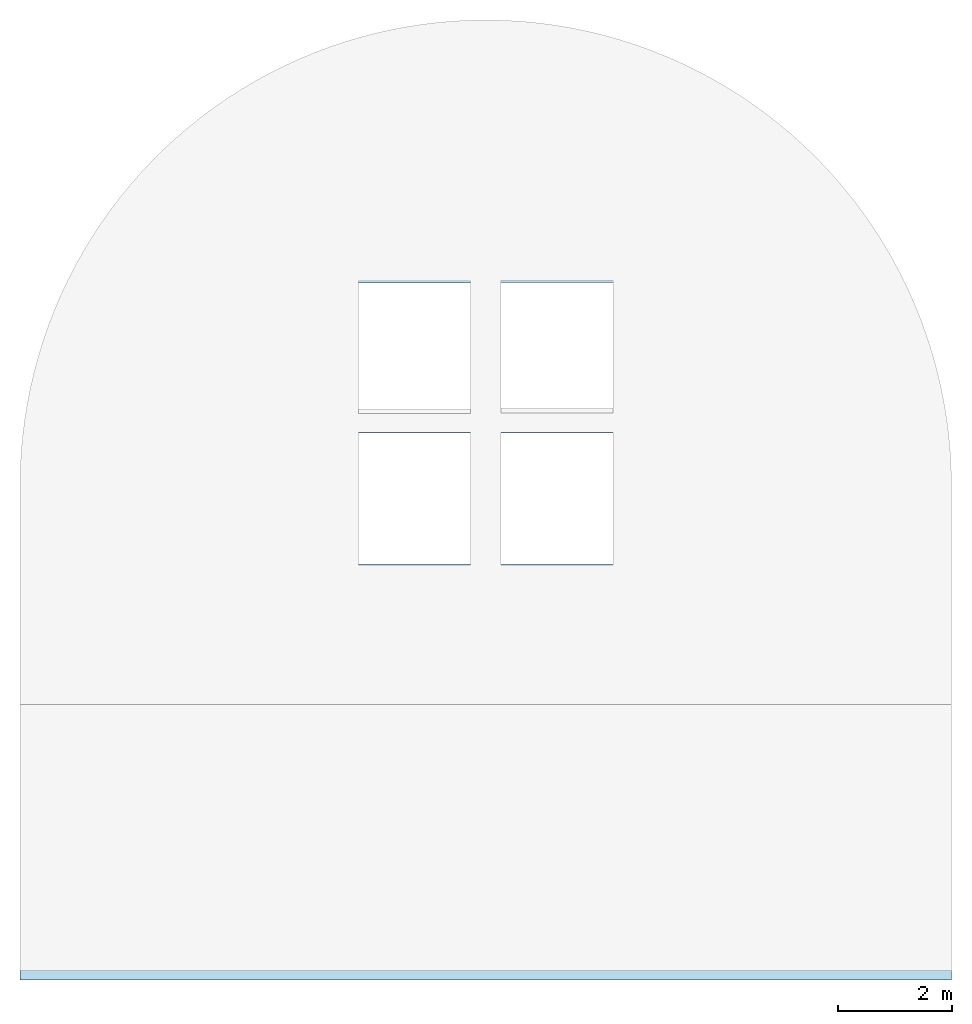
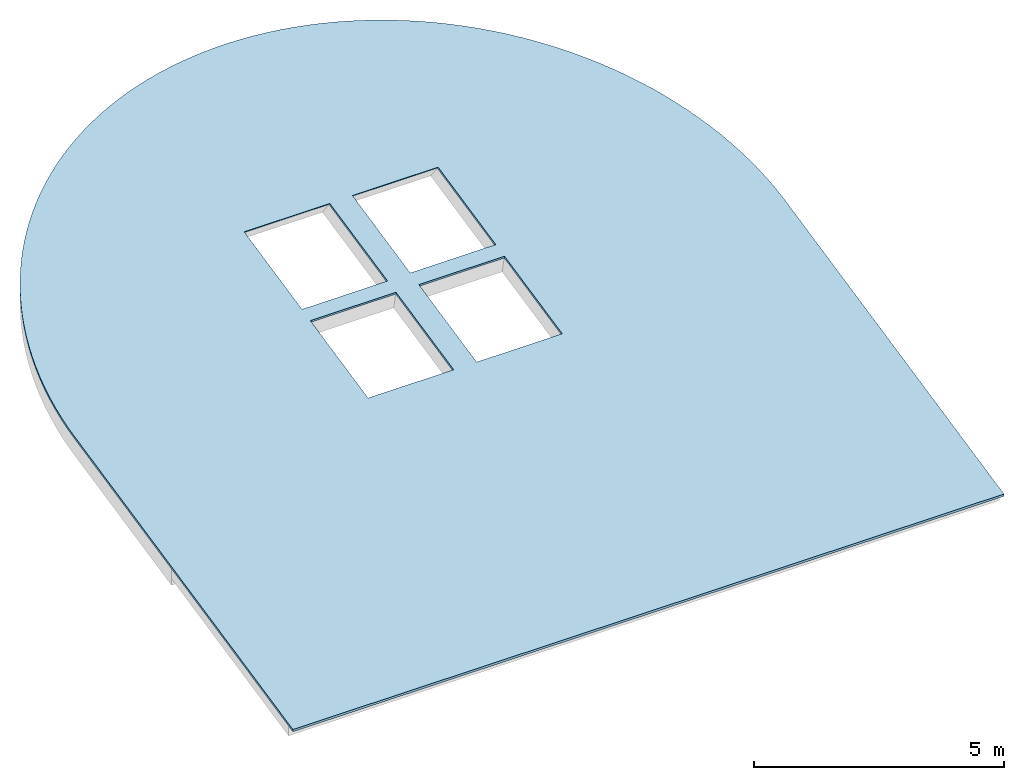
# One storey, part 2 of 3: 1 slab.
"""IFC4 building model written with IfcOpenShell, lengths in millimetres."""

from ifc_helpers import new_model, entity, si_unit, converted_unit, derived_unit, direction, frame, origin_with_axes, place, context, subcontext, project, spatial, polygons, material, type_object, element, save


model = new_model("IFC4")

# Units and contexts
model_context = context("Model", 3, precision=0.01, world=origin_with_axes(), true_north=direction((0.0, 1.0)))
body_context = subcontext(model_context, "Body", "Model", "MODEL_VIEW")
ifc_project = project(units=[si_unit("LENGTHUNIT", "METRE", prefix="MILLI"), si_unit("AREAUNIT", "SQUARE_METRE"), si_unit("VOLUMEUNIT", "CUBIC_METRE"), converted_unit("PLANEANGLEUNIT", "DEGREE", entity("IfcPlaneAngleMeasure", 0.0174532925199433), si_unit("PLANEANGLEUNIT", "RADIAN"), dimensions=[0, 0, 0, 0, 0, 0, 0]), converted_unit("TIMEUNIT", "Year", entity("IfcTimeMeasure", 31557600.0), si_unit("TIMEUNIT", "SECOND"), dimensions=[0, 0, 1, 0, 0, 0, 0]), si_unit("MASSUNIT", "GRAM", prefix="KILO"), si_unit("THERMODYNAMICTEMPERATUREUNIT", "DEGREE_CELSIUS"), si_unit("LUMINOUSINTENSITYUNIT", "LUMEN"), si_unit("ENERGYUNIT", "JOULE", prefix="MEGA"), derived_unit("THERMALCONDUCTANCEUNIT", [(si_unit("POWERUNIT", "WATT"), 1), (si_unit("LENGTHUNIT", "METRE"), -1), (si_unit("THERMODYNAMICTEMPERATUREUNIT", "KELVIN"), -1)]), derived_unit("SPECIFICHEATCAPACITYUNIT", [(si_unit("ENERGYUNIT", "JOULE"), 1), (si_unit("MASSUNIT", "GRAM", prefix="KILO"), -1), (si_unit("THERMODYNAMICTEMPERATUREUNIT", "KELVIN"), -1)]), derived_unit("MASSDENSITYUNIT", [(si_unit("MASSUNIT", "GRAM", prefix="KILO"), 1), (si_unit("VOLUMEUNIT", "CUBIC_METRE"), -1)])], contexts=[model_context])

# Site, building, storey
site_placement = place(None, origin_with_axes())
site = spatial("IfcSite", under=ifc_project, at=site_placement, Name="Exteriér", CompositionType="ELEMENT")
building_placement = place(site_placement, origin_with_axes())
building = spatial("IfcBuilding", under=site, at=building_placement, Name="Univerzitní lezecké centrum", CompositionType="ELEMENT")
storey_placement = place(building_placement, frame((0.0, 0.0, 12800.0), z_axis=(0.0, 0.0, 1.0), x_axis=(1.0, 0.0, 0.0)))
storey = spatial("IfcBuildingStorey", under=building, at=storey_placement, Name="Střecha", CompositionType="ELEMENT", Elevation=12800.0)

# Slab
ifc_material = material(Name="Trapézový plech")
slab_type = type_object("IfcSlabType", Name="Trapézový plech 54", PredefinedType="ROOF")
slab_placement = place(storey_placement, frame((-4450.14840074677, -15002.61071664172, -3371.248031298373), z_axis=(0.0, 0.0, 1.0), x_axis=(1.0, 0.0, 0.0)))
element("IfcSlab", 1, at=slab_placement, inside=storey, type_object=slab_type, material=ifc_material, Name="S01", PredefinedType="ROOF", context=body_context, shape_type="Tessellation", body=[
    polygons([(-1281.061409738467, 23977.80168603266, 5151.639082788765), (-1296.211063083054, 23690.33798591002, 5090.536787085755), (-1299.999935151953, 23402.51969498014, 5029.359120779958), (-1299.999935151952, 14702.51969498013, 3180.117034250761), (15100.00005519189, 14702.51969498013, 3180.117034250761), (15099.99993135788, 23402.51969498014, 5029.359120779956), (15099.99993135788, 23546.45100749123, 5059.952665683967), (15089.89756925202, 23834.13630980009, 5121.102064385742), (15069.70529110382, 24121.28986242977, 5182.138436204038), (15039.44797370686, 24407.55789352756, 5242.98658461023), (14999.16289393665, 24692.58772219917, 5303.571544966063), (14948.89968282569, 24976.02819301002, 5363.81867687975), (14888.72026441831, 25257.53010860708, 5423.653756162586), (14818.69877948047, 25536.74665992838, 5483.003066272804), (14738.92149415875, 25813.33385347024, 5541.793489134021), (14649.48669370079, 26086.9509350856, 5599.952595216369), (14550.50456136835, 26357.26080979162, 5657.408732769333), (14442.09704269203, 26623.93045706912, 5714.091116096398), (14324.39769523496, 26886.63134114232, 5769.929912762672), (14197.55152405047, 27145.03981573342, 5824.856329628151), (14061.71480303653, 27398.83752279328, 5878.80269760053), (13917.05488240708, 27647.71178471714, 5931.70255500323), (13763.74998251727, 27891.35598956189, 5983.490729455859), (13601.98897429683, 28129.46996879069, 6034.103418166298), (13431.971146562, 28361.7603670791, 6083.478266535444), (13253.90596049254, 28587.94100372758, 6131.554444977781), (13068.0127915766, 28807.73322523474, 6178.272723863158), (12874.52065934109, 29020.86624859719, 6223.575546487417), (12673.66794520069, 29227.07749491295, 6267.407099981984), (12465.70209877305, 29426.11291287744, 6309.713384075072), (12250.87933302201, 29617.72729177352, 6350.442277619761), (12029.46430860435, 29801.68456356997, 6389.543602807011), (11801.72980780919, 29977.7580937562, 6426.969186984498), (11567.95639849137, 30145.73096055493, 6462.672922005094), (11328.43208841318, 30305.39622216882, 6496.610821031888), (11083.45197042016, 30456.55717173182, 6528.741072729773), (10833.31785888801, 30599.02757965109, 6559.02409277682), (10578.33791788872, 30732.63192304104, 6587.422572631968), (10318.82628153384, 30857.2056019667, 6613.901525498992), (10055.10266696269, 30972.59514223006, 6638.428329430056), (9787.491980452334, 31078.6583844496, 6660.972767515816), (9516.323917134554, 31175.26465919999, 6681.507065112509), (9241.932554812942, 31262.2949479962, 6700.005924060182), (8964.655942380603, 31339.64202992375, 6716.44655384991), (8684.835683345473, 31407.21061373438, 6730.808699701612), (8402.81651497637, 31464.9174552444, 6743.074667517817), (8118.94588358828, 31512.69145989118, 6753.229345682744), (7833.573516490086, 31550.47377032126, 6761.260223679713), (7547.050991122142, 31578.21783890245, 6767.157407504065), (7259.731301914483, 31595.88948507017, 6770.913631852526), (6971.968425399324, 31603.46693743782, 6772.524269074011), (6684.116884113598, 31600.94086061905, 6771.9873348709), (6396.531309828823, 31588.31436672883, 6769.303490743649), (6109.566006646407, 31565.60301154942, 6764.476043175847), (5823.574514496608, 31532.83477536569, 6757.510939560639), (5538.90917357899, 31490.05002849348, 6748.416760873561), (5255.920690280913, 31437.30148154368, 6737.204711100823), (4974.95770510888, 31374.65412048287, 6723.888603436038), (4696.366363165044, 31302.18512657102, 6708.48484326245), (4420.48988769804, 31219.98378127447, 6691.01240794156), (4147.668157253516, 31128.15135627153, 6671.49282343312), (3878.237286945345, 31026.80098868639, 6649.950137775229), (3612.529214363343, 30916.05754170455, 6626.410891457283), (3350.871290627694, 30796.05745074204, 6600.904084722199), (3093.585877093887, 30666.94855535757, 6573.461141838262), (2840.989948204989, 30528.8899171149, 6544.115872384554), (2593.394700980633, 30382.05162361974, 6512.90442959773), (2351.10517162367, 30226.61457897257, 6479.865265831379), (2114.419859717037, 30062.77028089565, 6445.039085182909), (1883.630360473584, 29890.72058480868, 6408.468793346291), (1659.021005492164, 29710.67745514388, 6370.199444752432), (1440.868512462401, 29522.86270420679, 6330.278187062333), (1229.44164424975, 29327.50771890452, 6288.754203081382), (1025.000877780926, 29124.85317567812, 6245.67865016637), (827.7980831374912, 28915.14874399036, 6201.104597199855), (638.0762132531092, 28698.65277873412, 6155.086959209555), (456.0690045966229, 28475.63200194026, 6107.682429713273), (282.0006892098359, 28246.36117417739, 6058.94941087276), (116.0857184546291, 28011.12275604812, 6008.947941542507), (-41.47150119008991, 27770.20656019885, 5957.739623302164), (-190.4768599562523, 27523.90939427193, 5905.387544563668), (-330.7467839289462, 27272.53469524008, 5851.956202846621), (-462.1084612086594, 27016.39215557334, 5797.511425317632), (-584.4000548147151, 26755.79734169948, 5742.120287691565), (-697.4709020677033, 26491.07130522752, 5685.851031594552), (-801.1817002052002, 26222.54018741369, 5628.772980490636), (-895.4046780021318, 25950.53481735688, 5570.956454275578), (-980.0237531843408, 25675.39030441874, 5512.472682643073), (-1054.934675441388, 25397.44562537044, 5453.393717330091), (-1120.045154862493, 25117.04320677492, 5393.792343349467), (-1175.274975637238, 24834.5285031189, 5333.741989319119), (-1220.556094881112, 24550.24957121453, 5273.316636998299), (-1255.832726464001, 24264.55664139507, 5212.590730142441), (7164.463952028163, 26982.41026986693, 5790.288352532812), (9138.87531527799, 26982.41026986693, 5790.288352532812), (9138.87531527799, 24677.90112468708, 5300.449812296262), (7164.463952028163, 24677.90112468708, 5300.449812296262), (6635.38688765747, 24328.7958663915, 5226.245198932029), (6635.38688765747, 22023.70335290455, 4736.282659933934), (4660.975524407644, 22023.70335290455, 4736.282659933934), (4660.975524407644, 24328.7958663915, 5226.245198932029), (6635.38688765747, 24664.60869173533, 5297.624418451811), (4660.975524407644, 24664.60869173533, 5297.624418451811), (4660.975524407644, 26971.36318462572, 5787.940222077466), (6635.38688765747, 26971.36318462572, 5787.940222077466), (7164.463952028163, 22023.70335290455, 4736.282659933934), (7164.463952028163, 24330.71421876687, 5226.652957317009), (9138.87531527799, 24330.71421876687, 5226.652957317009), (9138.87531527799, 22023.70335290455, 4736.282659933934), (-1281.061409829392, 23977.80168679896, 5096.639083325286), (-1296.211062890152, 23690.33798461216, 5035.536787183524), (-1299.999935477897, 23402.51969700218, 4974.359121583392), (-1299.999935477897, 14702.51969460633, 3125.117034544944), (15100.00005574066, 14702.51969460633, 3125.117034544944), (15099.9999317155, 23413.70495295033, 4976.736621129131), (15099.9999317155, 23546.4510073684, 5004.952666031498), (15089.89756934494, 23834.13631035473, 5066.102064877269), (15069.70529086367, 24121.28986136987, 5127.138436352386), (15039.44797351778, 24407.55789413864, 5187.986585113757), (14999.16289382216, 24692.58772202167, 5248.571545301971), (14948.89968277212, 24976.0281924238, 5308.818677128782), (14888.72026463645, 25257.53010886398, 5368.653756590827), (14818.69877963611, 25536.74666080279, 5428.0030668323), (14738.92149440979, 25813.33385274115, 5486.793489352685), (14649.48669366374, 26086.95093518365, 5544.952595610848), (14550.50456159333, 26357.2608094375, 5602.408733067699), (14442.09704266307, 26623.93045764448, 5659.091116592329), (14324.39769539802, 26886.63134096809, 5714.929913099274), (14197.55152432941, 27145.03981539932, 5769.856329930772), (14061.71480285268, 27398.83752334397, 5823.802698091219), (13917.054882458, 27647.71178448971, 5876.702555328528), (13763.74998231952, 27891.35598978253, 5928.490729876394), (13601.98897417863, 28129.4699690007, 5979.103418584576), (13431.97114641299, 28361.76036769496, 6028.478267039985), (13253.90596099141, 28587.94100269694, 6076.554445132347), (13068.01279151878, 28807.73322563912, 6123.272724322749), (12874.52065915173, 29020.86624928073, 6168.575547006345), (12673.66794565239, 29227.07749410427, 6212.407100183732), (12465.70209855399, 29426.11291339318, 6254.713384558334), (12250.87933307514, 29617.72729198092, 6295.442278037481), (12029.46430882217, 29801.68456272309, 6334.543603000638), (11801.72980760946, 29977.75809363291, 6371.969187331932), (11567.95639819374, 30145.7309606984, 6407.672922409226), (11328.4320890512, 30305.3962216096, 6441.610821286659), (11083.45197026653, 30456.55717218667, 6473.741073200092), (10833.31785902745, 30599.02757980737, 6504.024093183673), (10578.33791845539, 30732.63192247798, 6532.422572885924), (10318.82628128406, 30857.20560213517, 6558.901525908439), (10055.10266714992, 30972.59514190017, 6583.428329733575), (9787.491979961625, 31078.65838470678, 6605.972767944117), (9516.323916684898, 31175.26465943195, 6626.507065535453), (9241.93255514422, 31262.29494795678, 6645.005924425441), (8964.65594248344, 31339.64202980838, 6661.446554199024), (8684.835683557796, 31407.21061392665, 6675.808700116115), (8402.816514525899, 31464.91745564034, 6688.074667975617), (8118.945883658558, 31512.69146010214, 6698.229346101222), (7833.573516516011, 31550.47377039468, 6706.260224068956), (7547.050991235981, 31578.21783861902, 6712.157407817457), (7259.731302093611, 31595.88948516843, 6715.913632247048), (6971.968425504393, 31603.46693781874, 6717.524269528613), (6684.116884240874, 31600.94086094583, 6716.987335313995), (6396.531309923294, 31588.3143664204, 6714.303491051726), (6109.566006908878, 31565.60301182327, 6709.47604360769), (5823.574514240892, 31532.83477578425, 6702.510940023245), (5538.909173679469, 31490.05002889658, 6693.41676133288), (5255.920690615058, 31437.30148176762, 6682.204711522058), (4974.95770538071, 31374.65412027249, 6668.888603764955), (4696.366363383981, 31302.1851266, 6653.484843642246), (4420.489887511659, 31219.98378106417, 6636.012408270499), (4147.668157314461, 31128.15135684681, 6616.492823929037), (3878.237286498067, 31026.80098840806, 6594.9501380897), (3612.529214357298, 30916.05754141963, 6571.410891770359), (3350.87129103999, 30796.05745094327, 6545.904085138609), (3093.585877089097, 30666.94855573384, 6518.461142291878), (2840.989948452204, 30528.88991737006, 6489.115872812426), (2593.394700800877, 30382.05162308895, 6457.904429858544), (2351.105172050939, 30226.61457976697, 6424.865266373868), (2114.419859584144, 30062.77028058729, 6390.039085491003), (1883.630360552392, 29890.72058469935, 6353.46879369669), (1659.021005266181, 29710.67745482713, 6315.19944505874), (1440.868512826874, 29522.86270407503, 6275.278187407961), (1229.441644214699, 29327.50771803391, 6233.754203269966), (1025.000878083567, 29124.8531759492, 6190.678650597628), (827.7980834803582, 28915.14874425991, 6146.104597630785), (638.0762133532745, 28698.65277873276, 6100.086959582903), (456.0690043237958, 28475.63200123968, 6052.682429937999), (282.0006895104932, 28246.36117537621, 6003.949411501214), (116.0857184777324, 28011.12275609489, 5953.947941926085), (-41.47150120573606, 27770.20655938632, 5902.739623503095), (-190.4768596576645, 27523.9093946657, 5850.387545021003), (-330.7467838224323, 27272.53469520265, 5796.956203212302), (-462.1084612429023, 27016.39215527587, 5742.511425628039), (-584.4000548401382, 26755.7973421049, 5687.120288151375), (-697.4709021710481, 26491.07130563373, 5630.851032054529), (-801.1817002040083, 26222.540186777, 5573.77298072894), (-895.4046776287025, 25950.53481809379, 5515.956454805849), (-980.0237531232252, 25675.39030311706, 5457.472682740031), (-1054.934675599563, 25397.44562589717, 5398.393717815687), (-1120.045155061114, 25117.04320768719, 5338.792343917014), (-1175.274975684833, 24834.52850216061, 5278.741989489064), (-1220.556095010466, 24550.24957200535, 5218.316637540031), (-1255.832726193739, 24264.55664024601, 5157.590730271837), (9138.87531527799, 27018.13380208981, 5742.881624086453), (7164.463952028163, 27018.13380208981, 5742.881624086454), (9138.87531527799, 24689.08638229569, 5247.827312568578), (7164.463952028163, 24689.08638229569, 5247.827312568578), (6635.38688765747, 24339.9811240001, 5173.622699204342), (6635.38688765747, 22010.35033589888, 4678.444388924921), (4660.975524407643, 22010.35033589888, 4678.444388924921), (4660.975524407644, 24339.9811240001, 5173.622699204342), (6635.38688765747, 24675.79394934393, 5245.001918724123), (4660.975524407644, 24675.79394934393, 5245.001918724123), (4660.975524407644, 27007.0867168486, 5740.533493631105), (6635.38688765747, 27007.0867168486, 5740.533493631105), (7164.463952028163, 22010.35033589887, 4678.444388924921), (7164.463952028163, 24341.89947637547, 5174.030457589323), (9138.87531527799, 24341.89947637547, 5174.030457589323), (9138.87531527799, 22010.35033589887, 4678.444388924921)], [[[1, 2, 3, 4, 5, 6, 7, 8, 9, 10, 11, 12, 13, 14, 15, 16, 17, 18, 19, 20, 21, 22, 23, 24, 25, 26, 27, 28, 29, 30, 31, 32, 33, 34, 35, 36, 37, 38, 39, 40, 41, 42, 43, 44, 45, 46, 47, 48, 49, 50, 51, 52, 53, 54, 55, 56, 57, 58, 59, 60, 61, 62, 63, 64, 65, 66, 67, 68, 69, 70, 71, 72, 73, 74, 75, 76, 77, 78, 79, 80, 81, 82, 83, 84, 85, 86, 87, 88, 89, 90, 91, 92, 93], [94, 95, 96, 97], [98, 99, 100, 101], [102, 103, 104, 105], [106, 107, 108, 109]], [[2, 1, 110, 111]], [[3, 2, 111, 112]], [[4, 3, 112, 113]], [[5, 4, 113, 114]], [[6, 5, 114, 115]], [[7, 6, 115, 116]], [[8, 7, 116, 117]], [[9, 8, 117, 118]], [[10, 9, 118, 119]], [[11, 10, 119, 120]], [[12, 11, 120, 121]], [[13, 12, 121, 122]], [[14, 13, 122, 123]], [[15, 14, 123, 124]], [[16, 15, 124, 125]], [[17, 16, 125, 126]], [[18, 17, 126, 127]], [[19, 18, 127, 128]], [[20, 19, 128, 129]], [[21, 20, 129, 130]], [[22, 21, 130, 131]], [[23, 22, 131, 132]], [[24, 23, 132, 133]], [[25, 24, 133, 134]], [[26, 25, 134, 135]], [[27, 26, 135, 136]], [[28, 27, 136, 137]], [[29, 28, 137, 138]], [[30, 29, 138, 139]], [[31, 30, 139, 140]], [[32, 31, 140, 141]], [[33, 32, 141, 142]], [[34, 33, 142, 143]], [[35, 34, 143, 144]], [[36, 35, 144, 145]], [[37, 36, 145, 146]], [[38, 37, 146, 147]], [[39, 38, 147, 148]], [[40, 39, 148, 149]], [[41, 40, 149, 150]], [[42, 41, 150, 151]], [[43, 42, 151, 152]], [[44, 43, 152, 153]], [[45, 44, 153, 154]], [[46, 45, 154, 155]], [[47, 46, 155, 156]], [[48, 47, 156, 157]], [[49, 48, 157, 158]], [[50, 49, 158, 159]], [[51, 50, 159, 160]], [[52, 51, 160, 161]], [[53, 52, 161, 162]], [[54, 53, 162, 163]], [[55, 54, 163, 164]], [[56, 55, 164, 165]], [[57, 56, 165, 166]], [[58, 57, 166, 167]], [[59, 58, 167, 168]], [[60, 59, 168, 169]], [[61, 60, 169, 170]], [[62, 61, 170, 171]], [[63, 62, 171, 172]], [[64, 63, 172, 173]], [[65, 64, 173, 174]], [[66, 65, 174, 175]], [[67, 66, 175, 176]], [[68, 67, 176, 177]], [[69, 68, 177, 178]], [[70, 69, 178, 179]], [[71, 70, 179, 180]], [[72, 71, 180, 181]], [[73, 72, 181, 182]], [[74, 73, 182, 183]], [[75, 74, 183, 184]], [[76, 75, 184, 185]], [[77, 76, 185, 186]], [[78, 77, 186, 187]], [[79, 78, 187, 188]], [[80, 79, 188, 189]], [[81, 80, 189, 190]], [[82, 81, 190, 191]], [[83, 82, 191, 192]], [[84, 83, 192, 193]], [[85, 84, 193, 194]], [[86, 85, 194, 195]], [[87, 86, 195, 196]], [[88, 87, 196, 197]], [[89, 88, 197, 198]], [[90, 89, 198, 199]], [[91, 90, 199, 200]], [[92, 91, 200, 201]], [[93, 92, 201, 202]], [[1, 93, 202, 110]], [[203, 95, 94, 204]], [[205, 96, 95, 203]], [[206, 97, 96, 205]], [[204, 94, 97, 206]], [[99, 98, 207, 208]], [[208, 209, 100, 99]], [[101, 100, 209, 210]], [[98, 101, 210, 207]], [[102, 211, 212, 103]], [[103, 212, 213, 104]], [[104, 213, 214, 105]], [[105, 214, 211, 102]], [[215, 216, 107, 106]], [[216, 217, 108, 107]], [[217, 218, 109, 108]], [[106, 109, 218, 215]], [[119, 118, 117, 116, 115, 114, 113, 112, 111, 110, 202, 201, 200, 199, 198, 197, 196, 195, 194, 193, 192, 191, 190, 189, 188, 187, 186, 185, 184, 183, 182, 181, 180, 179, 178, 177, 176, 175, 174, 173, 172, 171, 170, 169, 168, 167, 166, 165, 164, 163, 162, 161, 160, 159, 158, 157, 156, 155, 154, 153, 152, 151, 150, 149, 148, 147, 146, 145, 144, 143, 142, 141, 140, 139, 138, 137, 136, 135, 134, 133, 132, 131, 130, 129, 128, 127, 126, 125, 124, 123, 122, 121, 120], [205, 203, 204, 206], [207, 210, 209, 208], [213, 212, 211, 214], [215, 218, 217, 216]]], closed=True),
])

save(model, "model.ifc")
